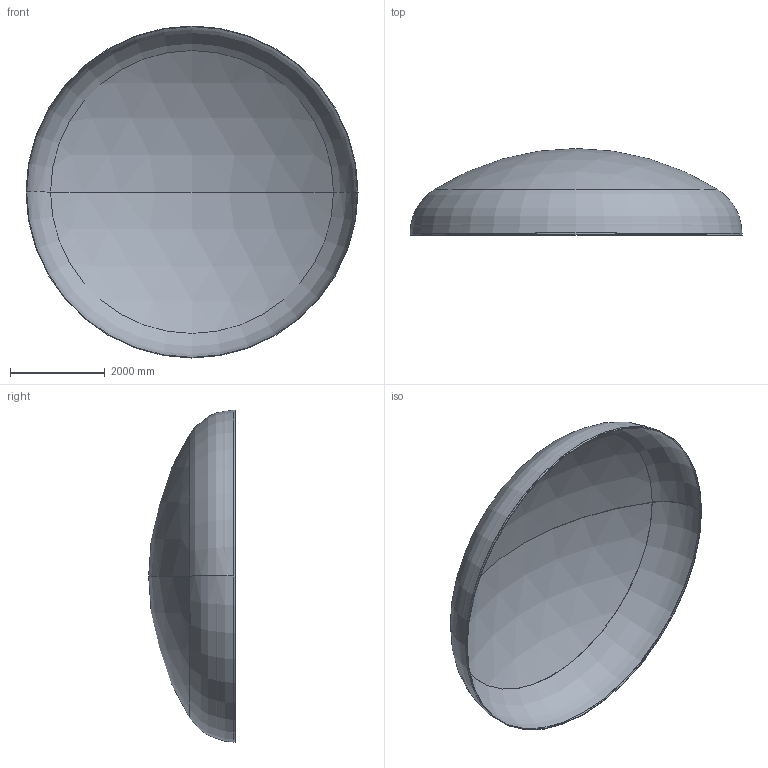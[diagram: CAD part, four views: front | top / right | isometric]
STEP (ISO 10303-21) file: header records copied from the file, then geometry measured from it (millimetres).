
FILE_DESCRIPTION (( 'STEP AP203' ), '1' );
FILE_NAME ('DIN 28013 Korbbogenform_-_Boden DIN 28013 - 7000 x 40 - I - s=12.step', '2016-07-04T10:45:09', ( '' ), ( '' ), 'SwSTEP 2.0', 'SolidWorks 2013', '' );
FILE_SCHEMA (( 'CONFIG_CONTROL_DESIGN' ));
Length unit declared in the file: millimetre
Products named in the file (1): DIN 28013 Korbbogenform_-_Boden DIN 28013 - 7000 x 40 - I - s=12
Bounding box: 7000 x 1826.83 x 7000 mm (x, y, z)
Volume: 648987858.4 mm3; surface area: 108428341.3 mm2
Topology: 1 solids, 1 shells, 13 faces, 24 edges, 14 vertices
Faces by surface type: torus 4, cylinder 4, sphere 4, plane 1
Entity records: 407 total; most frequent: DIRECTION 72, CARTESIAN_POINT 52, ORIENTED_EDGE 48, AXIS2_PLACEMENT_3D 34, EDGE_CURVE 24, CIRCLE 20, VERTEX_POINT 14, EDGE_LOOP 14
